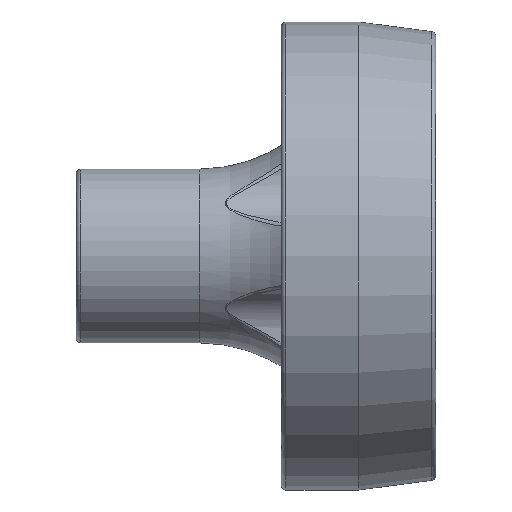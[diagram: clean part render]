
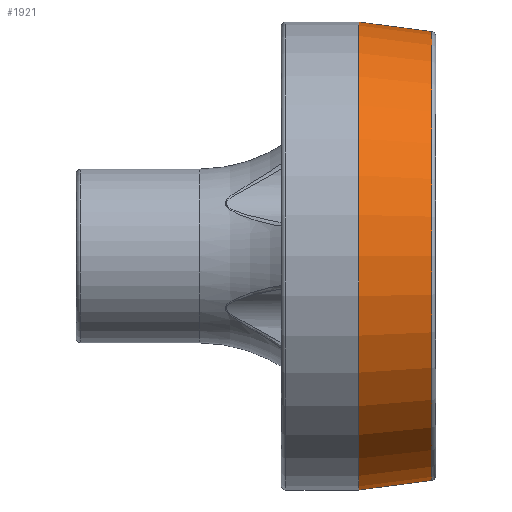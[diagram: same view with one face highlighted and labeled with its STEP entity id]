
A CAD part, top view. The second image highlights one B-rep face of the part: STEP entity #1921.
In plain terms, the highlighted conical face has half-angle 7.5 degrees and reference radius 18.404 mm.
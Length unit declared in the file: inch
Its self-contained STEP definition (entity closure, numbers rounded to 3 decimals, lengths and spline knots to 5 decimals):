
#34 = CIRCLE ( 'NONE', #7929, 0.75737 ) ;
#67 = ORIENTED_EDGE ( 'NONE', *, *, #5821, .F. ) ;
#502 = DIRECTION ( 'NONE',  ( 0., 1., 0. ) ) ;
#1179 = DIRECTION ( 'NONE',  ( -1., 0., 0. ) ) ;
#1592 = DIRECTION ( 'NONE',  ( -0.991, -0.131, 0. ) ) ;
#1905 = EDGE_CURVE ( 'NONE', #4917, #6579, #4022, .T. ) ;
#1921 = ADVANCED_FACE ( 'NONE', ( #4731 ), #8373, .T. ) ;
#2340 = EDGE_CURVE ( 'NONE', #7896, #4970, #34, .T. ) ;
#2388 = DIRECTION ( 'NONE',  ( -0.991, 0.131, 0. ) ) ;
#2543 = VECTOR ( 'NONE', #2388, 39.37008 ) ;
#2702 = AXIS2_PLACEMENT_3D ( 'NONE', #7572, #1179, #4038 ) ;
#2777 = EDGE_CURVE ( 'NONE', #6579, #7896, #6590, .T. ) ;
#3127 = VECTOR ( 'NONE', #1592, 39.37008 ) ;
#3282 = CARTESIAN_POINT ( 'NONE',  ( -0.01304, 0., 0. ) ) ;
#3479 = ORIENTED_EDGE ( 'NONE', *, *, #2777, .T. ) ;
#3628 = CARTESIAN_POINT ( 'NONE',  ( -0.01304, 0.7263, 0. ) ) ;
#3795 = CARTESIAN_POINT ( 'NONE',  ( -0.24903, 0.75737, 0. ) ) ;
#4011 = DIRECTION ( 'NONE',  ( 1., 0., 0. ) ) ;
#4022 = CIRCLE ( 'NONE', #7273, 0.7263 ) ;
#4038 = DIRECTION ( 'NONE',  ( 0., -1., 0. ) ) ;
#4587 = CARTESIAN_POINT ( 'NONE',  ( -0.01304, -0.7263, 0. ) ) ;
#4731 = FACE_OUTER_BOUND ( 'NONE', #7707, .T. ) ;
#4917 = VERTEX_POINT ( 'NONE', #4587 ) ;
#4970 = VERTEX_POINT ( 'NONE', #6198 ) ;
#5299 = CARTESIAN_POINT ( 'NONE',  ( 0., 0.72459, 0. ) ) ;
#5821 = EDGE_CURVE ( 'NONE', #4917, #4970, #7348, .T. ) ;
#6128 = DIRECTION ( 'NONE',  ( -1., 0., 0. ) ) ;
#6198 = CARTESIAN_POINT ( 'NONE',  ( -0.24903, -0.75737, 0. ) ) ;
#6579 = VERTEX_POINT ( 'NONE', #3628 ) ;
#6590 = LINE ( 'NONE', #5299, #2543 ) ;
#7273 = AXIS2_PLACEMENT_3D ( 'NONE', #3282, #6128, #8962 ) ;
#7348 = LINE ( 'NONE', #8728, #3127 ) ;
#7385 = ORIENTED_EDGE ( 'NONE', *, *, #1905, .T. ) ;
#7572 = CARTESIAN_POINT ( 'NONE',  ( 0., 0., 0. ) ) ;
#7612 = ORIENTED_EDGE ( 'NONE', *, *, #2340, .T. ) ;
#7707 = EDGE_LOOP ( 'NONE', ( #7385, #3479, #7612, #67 ) ) ;
#7896 = VERTEX_POINT ( 'NONE', #3795 ) ;
#7929 = AXIS2_PLACEMENT_3D ( 'NONE', #8985, #4011, #502 ) ;
#8373 = CONICAL_SURFACE ( 'NONE', #2702, 0.72459, 0.131 ) ;
#8728 = CARTESIAN_POINT ( 'NONE',  ( 0., -0.72459, 0. ) ) ;
#8962 = DIRECTION ( 'NONE',  ( 0., 1., 0. ) ) ;
#8985 = CARTESIAN_POINT ( 'NONE',  ( -0.24903, 0., 0. ) ) ;
